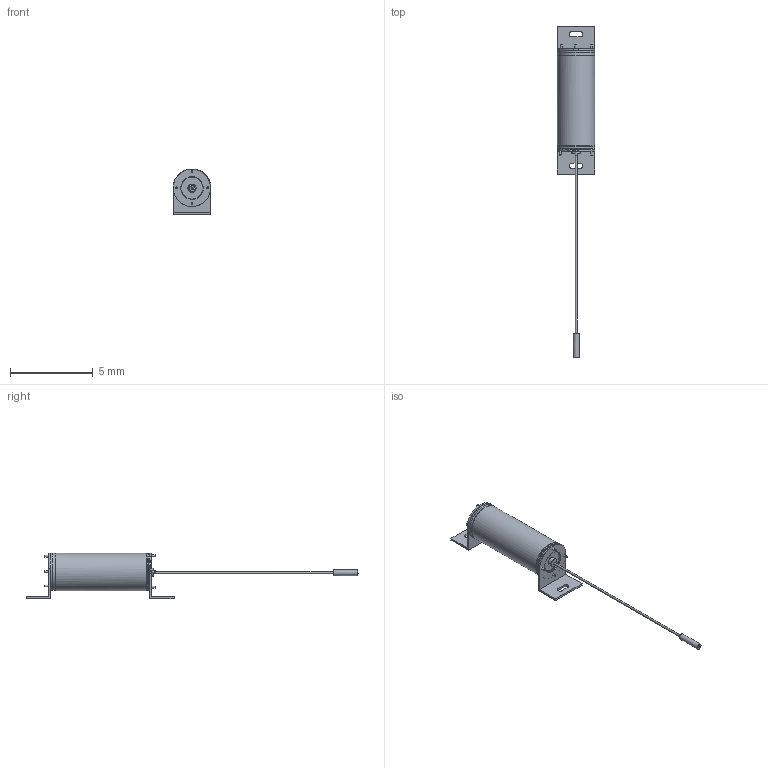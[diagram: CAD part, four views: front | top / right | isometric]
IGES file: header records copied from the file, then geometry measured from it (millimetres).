
Start section:  Autodesk DirectConnect version 7.0.27.0 ---- IGES version 5.3
Global section: file name: C:\ACADFILES\SS_PYLONS\CUSTOMER_FILES\SS-04-PYLON_3D_SMB_PT.iges; native system: Autodesk DirectConnect 7.0.27.0; preprocessor: 7.0.27.0; author: ENGINEERMAIN; organization: Unknown; date: 20150810.123932; units: millimetre
Bounding box: 2.26 x 20.01 x 2.75 mm (x, y, z)
Surface area: 240.1 mm2 (no closed solid volume)
Topology: 0 solids, 0 shells, 772 faces, 3944 edges, 3944 vertices
Faces by surface type: bspline 772
